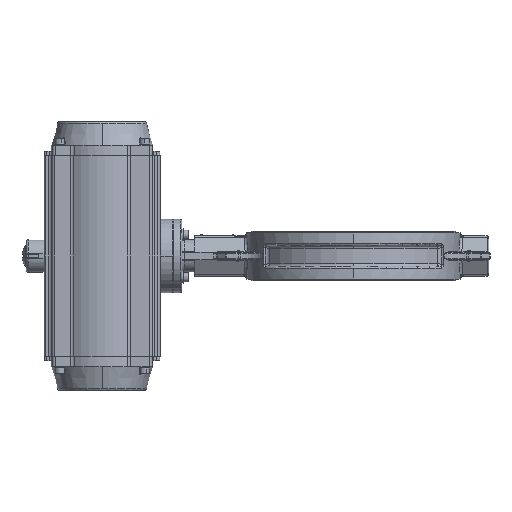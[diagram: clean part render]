
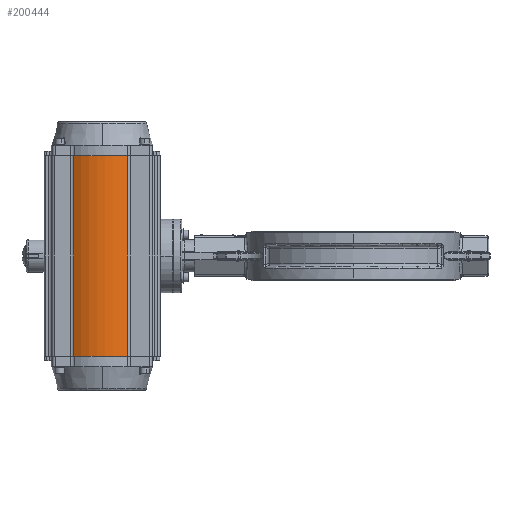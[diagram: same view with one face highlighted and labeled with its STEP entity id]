
A CAD part, left-side view. The second image highlights one B-rep face of the part: STEP entity #200444.
In plain terms, the highlighted cylindrical face has radius 87 mm (diameter 174 mm), a partial arc.
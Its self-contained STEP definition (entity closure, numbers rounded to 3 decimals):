
#19 = EDGE_CURVE ( 'NONE', #109573, #116337, #190056, .T. ) ;
#131 = EDGE_CURVE ( 'NONE', #117813, #117839, #190248, .T. ) ;
#183 = EDGE_CURVE ( 'NONE', #117839, #116337, #51560, .T. ) ;
#187 = EDGE_CURVE ( 'NONE', #109573, #117813, #51620, .T. ) ;
#3388 = CARTESIAN_POINT ( 'NONE',  ( 0., 426.9, 170. ) ) ;
#3390 = DIRECTION ( 'NONE',  ( 0., 0., 1. ) ) ;
#3393 = DIRECTION ( 'NONE',  ( 1., 0., 0. ) ) ;
#11188 = AXIS2_PLACEMENT_3D ( 'NONE', #19631, #19614, #19637 ) ;
#19614 = DIRECTION ( 'NONE',  ( 0., 0., 1. ) ) ;
#19628 = FACE_OUTER_BOUND ( 'NONE', #67206, .T. ) ;
#19631 = CARTESIAN_POINT ( 'NONE',  ( 0., 426.9, -170. ) ) ;
#19634 = CYLINDRICAL_SURFACE ( 'NONE', #11188, 87. ) ;
#19637 = DIRECTION ( 'NONE',  ( 1., 0., 0. ) ) ;
#45916 = CARTESIAN_POINT ( 'NONE',  ( -75.34, 383.393, 170. ) ) ;
#46279 = CARTESIAN_POINT ( 'NONE',  ( -72.649, 474.765, 170. ) ) ;
#48119 = CARTESIAN_POINT ( 'NONE',  ( -72.649, 474.765, -170. ) ) ;
#48140 = CARTESIAN_POINT ( 'NONE',  ( -75.34, 383.393, -170. ) ) ;
#51560 = LINE ( 'NONE', #51561, #190278 ) ;
#51561 = CARTESIAN_POINT ( 'NONE',  ( -75.34, 383.393, -613.224 ) ) ;
#51562 = DIRECTION ( 'NONE',  ( 0., 0., 1. ) ) ;
#51620 = LINE ( 'NONE', #51621, #190182 ) ;
#51621 = CARTESIAN_POINT ( 'NONE',  ( -72.649, 474.765, -170. ) ) ;
#51622 = DIRECTION ( 'NONE',  ( 0., 0., -1. ) ) ;
#67206 = EDGE_LOOP ( 'NONE', ( #93376, #93377, #93378, #93379 ) ) ;
#93376 = ORIENTED_EDGE ( 'NONE', *, *, #19, .F. ) ;
#93377 = ORIENTED_EDGE ( 'NONE', *, *, #187, .T. ) ;
#93378 = ORIENTED_EDGE ( 'NONE', *, *, #131, .T. ) ;
#93379 = ORIENTED_EDGE ( 'NONE', *, *, #183, .T. ) ;
#109573 = VERTEX_POINT ( 'NONE', #46279 ) ;
#116337 = VERTEX_POINT ( 'NONE', #45916 ) ;
#117813 = VERTEX_POINT ( 'NONE', #48119 ) ;
#117839 = VERTEX_POINT ( 'NONE', #48140 ) ;
#145895 = CARTESIAN_POINT ( 'NONE',  ( 0., 426.9, -170. ) ) ;
#145897 = DIRECTION ( 'NONE',  ( 0., 0., 1. ) ) ;
#145901 = DIRECTION ( 'NONE',  ( 1., 0., 0. ) ) ;
#190056 = CIRCLE ( 'NONE', #190259, 87. ) ;
#190182 = VECTOR ( 'NONE', #51622, 1000. ) ;
#190237 = AXIS2_PLACEMENT_3D ( 'NONE', #145895, #145897, #145901 ) ;
#190248 = CIRCLE ( 'NONE', #190237, 87. ) ;
#190259 = AXIS2_PLACEMENT_3D ( 'NONE', #3388, #3390, #3393 ) ;
#190278 = VECTOR ( 'NONE', #51562, 1000. ) ;
#200444 = ADVANCED_FACE ( 'NONE', ( #19628 ), #19634, .T. ) ;
